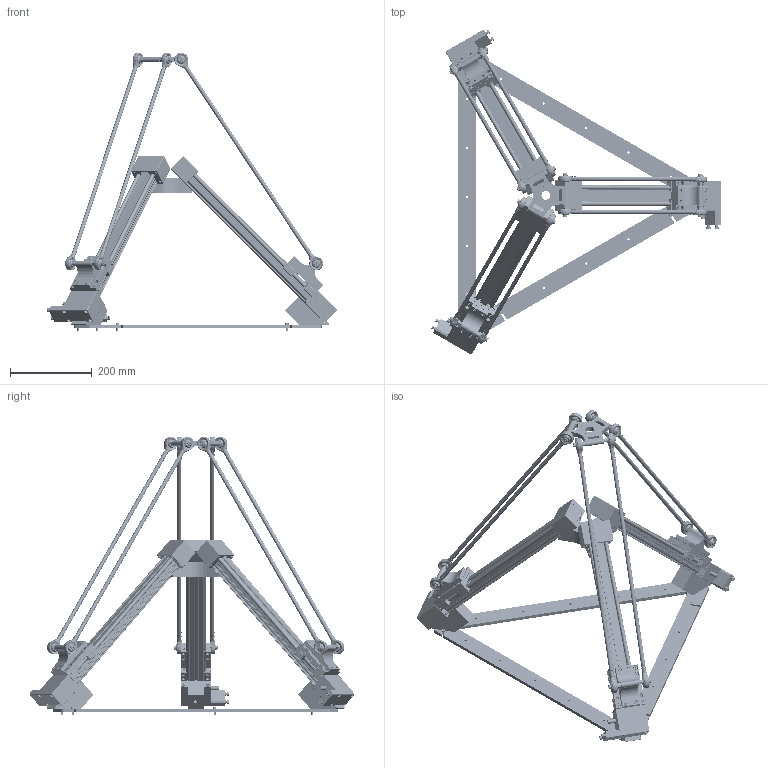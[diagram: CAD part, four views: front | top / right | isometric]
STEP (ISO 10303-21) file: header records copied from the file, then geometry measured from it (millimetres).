
FILE_DESCRIPTION(/* description */ (''),/* implementation_level */ '2;1');
FILE_NAME(/* name */ 'I:\Gleitlager\Konstruktion\SERIE NEU (im Aufbau!!)\drylin E\Deltaroboter\Modelle\DLE-DR-0054\DLE-DR-0054.stp',/* time_stamp */ '2019-04-16T10:43:33+02:00',/* author */ ('fkoeching'),/* organization */ (''),/* preprocessor_version */ 'ST-DEVELOPER v17',/* originating_system */ 'Autodesk Inventor 2018',/* authorisation */ '');
FILE_SCHEMA (('AUTOMOTIVE_DESIGN { 1 0 10303 214 3 1 1 }'));
Products named in the file (56): DLE-DR-0054; ETY-DR-0023; ETY-DR-0013; DLE-DR-ZLW-0005; ZSX-104001; ZTL-104002; SAXT-104001; ZTL-10400S-V; SAWT-104002; NOR-10412; ZR-104001; ZR-104001-XX; ZSY-104002; NOR-10703; ZTF-104004; SAXT-104004; SAXT-104002; NOR-10614; ZTF-10400S-V; SAWT-104001; ZTY-104035; NOR-20901; JTEM-10; ZTZ-104009; NOR-10604; ZSA-104001-AL; ZSY-104001; WJ200UMA-01-10-AL; WMA-01-10-AL; WRZ-011007; J200UMA-01-10; NOR-10601; AK-DR-0003; ZTY-104004; MH-06; NOR-20114; ETY-DR-0011; ZWY-104001; ETY-DR-0021; ETY-DR-0022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
Assembly tree (193 placements, depth 5):
  DLE-DR-0054
    ETY-DR-0023
    ETY-DR-0013  x3
    DLE-DR-ZLW-0005  x3
      ZSX-104001
      ZTL-104002
        SAXT-104001
        SAXT-104002
        NOR-10614  x2
        ZTL-10400S-V
          SAWT-104002
          NOR-10412  x4
          NOR-10604  x4
          JTEM-10  x4
          NOR-20901  x2
          ZTY-104035  x2
        ZTZ-104009  x2
      ZR-104001
        ZR-104001-XX
        NOR-10703  x2
        ZSY-104002  x2
      ZTF-104004
        SAXT-104004
        SAXT-104002
        NOR-10614  x2
        ZTF-10400S-V
          JTEM-10  x4
          SAWT-104001
          ZTY-104035  x2
          NOR-20901  x2
        ZTZ-104009  x2
        NOR-10604  x2
      ZSA-104001-AL
        ZSY-104001
        WJ200UMA-01-10-AL  x4
          WMA-01-10-AL
          WRZ-011007
          J200UMA-01-10
        NOR-10601  x4
      AK-DR-0003
        ZTY-104004
        MH-06  x2
        NOR-10629  x2
        NOR-20114  x4
    ETY-DR-0011
    ZWY-104001  x3
    ETY-DR-0021  x3
    ETY-DR-0022
    KDGM-DR-12-A-ER-J-600  x6
      RDGM-12X0.75-3000-ES
      /D/KARM-12-CL-KDGM
      ETY-DR-0024
    AK-DR-0007
      ETY-DR-0020  x12
      NOR-10737  x12
      NOR-10610  x3
      NOR-20602  x6
      NOR-10514  x3
      NOR-10629  x12
      NOR-10609  x12
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Bounding box: 711.45 x 797.7 x 682.98 mm (x, y, z)
Volume: 3913191 mm3; surface area: 2098542.2 mm2
Topology: 356 solids, 356 shells, 13844 faces, 36872 edges, 24146 vertices
Faces by surface type: plane 6977, cylinder 4000, bspline 1152, cone 1017, torus 488, sphere 210
Full cylindrical faces by diameter (mm): 2.5 x15, 3 x4, 3.2 x3, 3.5 x4, 4 x54, 4.018 x12, 4.134 x78, 4.5 x24, 4.917 x66, 5 x148, 5.3 x4, 5.4 x3, 5.5 x64, 5.96 x12, 6 x96, 6.2 x24, 6.6 x42, 6.647 x6, 7 x12, 7.2 x12, 8 x36, 8.5 x40, 9.43 x12, 9.5 x24, 9.8 x12, 10 x154, 10.2 x24, 11 x48, 12 x30, 14 x12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
Entity records: 85929 total; most frequent: CARTESIAN_POINT 23476, DIRECTION 12922, ORIENTED_EDGE 12396, EDGE_CURVE 6198, AXIS2_PLACEMENT_3D 4810, VERTEX_POINT 4120, LINE 3302, VECTOR 3302
